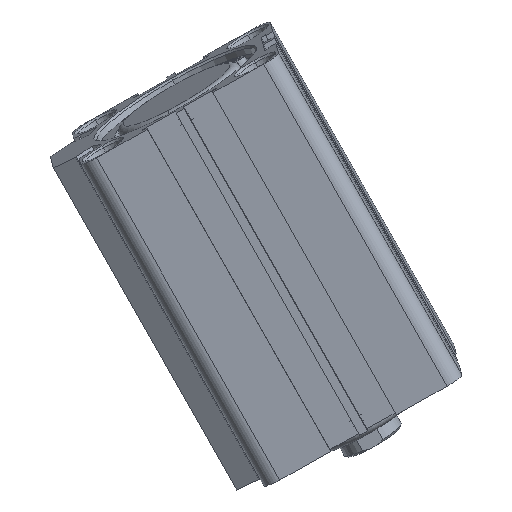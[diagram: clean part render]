
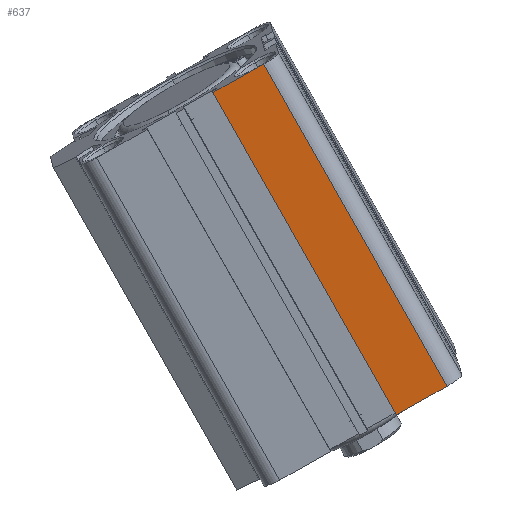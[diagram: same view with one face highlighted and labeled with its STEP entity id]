
A CAD part, left-side view. The second image highlights one B-rep face of the part: STEP entity #637.
In plain terms, the highlighted planar face has unit normal (-0.987, -0.042, -0.158) as drawn and (-1, 0, 0) by its records, which use the part's own axes.
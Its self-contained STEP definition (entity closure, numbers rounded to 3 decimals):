
#226 = EDGE_LOOP ( 'NONE', ( #4290, #15192, #6171, #4239 ) ) ;
#637 = ADVANCED_FACE ( 'NONE', ( #649 ), #6970, .T. ) ;
#649 = FACE_OUTER_BOUND ( 'NONE', #226, .T. ) ;
#1050 = VECTOR ( 'NONE', #8040, 1000. ) ;
#2229 = CARTESIAN_POINT ( 'NONE',  ( -26., -8.6, 0. ) ) ;
#3099 = DIRECTION ( 'NONE',  ( 0., 0., -1. ) ) ;
#3182 = VERTEX_POINT ( 'NONE', #2229 ) ;
#3382 = EDGE_CURVE ( 'NONE', #9105, #3182, #14440, .T. ) ;
#3569 = VERTEX_POINT ( 'NONE', #10134 ) ;
#4082 = CARTESIAN_POINT ( 'NONE',  ( -26., -22., 0. ) ) ;
#4218 = LINE ( 'NONE', #14177, #4602 ) ;
#4239 = ORIENTED_EDGE ( 'NONE', *, *, #6218, .T. ) ;
#4290 = ORIENTED_EDGE ( 'NONE', *, *, #3382, .F. ) ;
#4602 = VECTOR ( 'NONE', #3099, 1000. ) ;
#5096 = DIRECTION ( 'NONE',  ( 0., 1., 0. ) ) ;
#5943 = EDGE_CURVE ( 'NONE', #3569, #8439, #17693, .T. ) ;
#6171 = ORIENTED_EDGE ( 'NONE', *, *, #5943, .T. ) ;
#6218 = EDGE_CURVE ( 'NONE', #8439, #3182, #19078, .T. ) ;
#6726 = CARTESIAN_POINT ( 'NONE',  ( -26., 0., 0. ) ) ;
#6970 = PLANE ( 'NONE',  #15189 ) ;
#8040 = DIRECTION ( 'NONE',  ( 0., 1., 0. ) ) ;
#8439 = VERTEX_POINT ( 'NONE', #11467 ) ;
#9105 = VERTEX_POINT ( 'NONE', #4082 ) ;
#9909 = CARTESIAN_POINT ( 'NONE',  ( -26., -8.6, 86. ) ) ;
#10008 = CARTESIAN_POINT ( 'NONE',  ( -26., 0., 86. ) ) ;
#10134 = CARTESIAN_POINT ( 'NONE',  ( -26., -22., 86. ) ) ;
#11388 = DIRECTION ( 'NONE',  ( 0., 0., -1. ) ) ;
#11467 = CARTESIAN_POINT ( 'NONE',  ( -26., -8.6, 86. ) ) ;
#12382 = VECTOR ( 'NONE', #11388, 1000. ) ;
#13181 = CARTESIAN_POINT ( 'NONE',  ( -26., 0., 86. ) ) ;
#14177 = CARTESIAN_POINT ( 'NONE',  ( -26., -22., 86. ) ) ;
#14440 = LINE ( 'NONE', #6726, #1050 ) ;
#14798 = DIRECTION ( 'NONE',  ( -1., 0., 0. ) ) ;
#15189 = AXIS2_PLACEMENT_3D ( 'NONE', #13181, #14798, #17979 ) ;
#15192 = ORIENTED_EDGE ( 'NONE', *, *, #18378, .F. ) ;
#16928 = VECTOR ( 'NONE', #5096, 1000. ) ;
#17693 = LINE ( 'NONE', #10008, #16928 ) ;
#17979 = DIRECTION ( 'NONE',  ( 0., 0., 1. ) ) ;
#18378 = EDGE_CURVE ( 'NONE', #3569, #9105, #4218, .T. ) ;
#19078 = LINE ( 'NONE', #9909, #12382 ) ;
